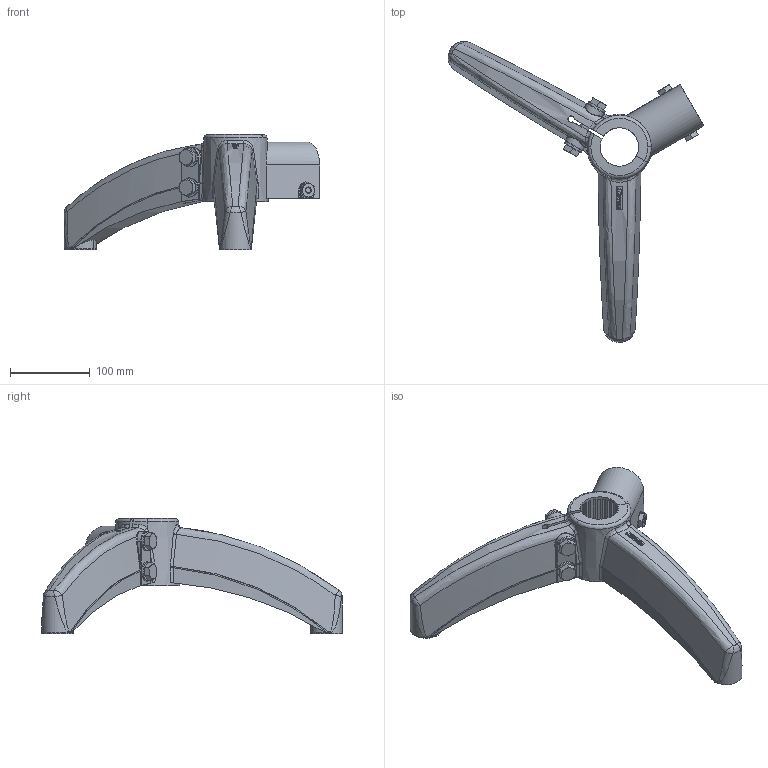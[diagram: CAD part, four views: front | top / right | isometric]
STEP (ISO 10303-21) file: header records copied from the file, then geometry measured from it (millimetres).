
FILE_DESCRIPTION(('CATIA V5 STEP Exchange'),'2;1');
FILE_NAME('X:\CODICI MOVEX\3D per clienti\Elena Finazzi\2016\24-03-2016\P40301_01.stp','2016-03-24T08:06:39+00:00',('none'),('none'),'Version 5-6 Release 2012','CATIA V5 STEP AP203','none');
FILE_SCHEMA(('CONFIG_CONTROL_DESIGN'));
Length unit declared in the file: millimetre
Products named in the file (1): Product1
Assembly tree (13 placements, depth 2):
  Product1
    #57
    #29057  x4
    #29271  x2
    #29455  x2
    #30044
    #30630  x2
    #31441
Bounding box: 320.79 x 377.48 x 144.73 mm (x, y, z)
Volume: 1405533.8 mm3; surface area: 251588.5 mm2
Topology: 15 solids, 17 shells, 948 faces, 2572 edges, 1669 vertices
Faces by surface type: plane 618, cylinder 160, cone 86, bspline 64, torus 16, sphere 4
Entity records: 32200 total; most frequent: CARTESIAN_POINT 12640, ORIENTED_EDGE 4832, DIRECTION 2685, EDGE_CURVE 2416, VERTEX_POINT 1573, B_SPLINE_CURVE_WITH_KNOTS 1095, AXIS2_PLACEMENT_3D 1091, EDGE_LOOP 917
